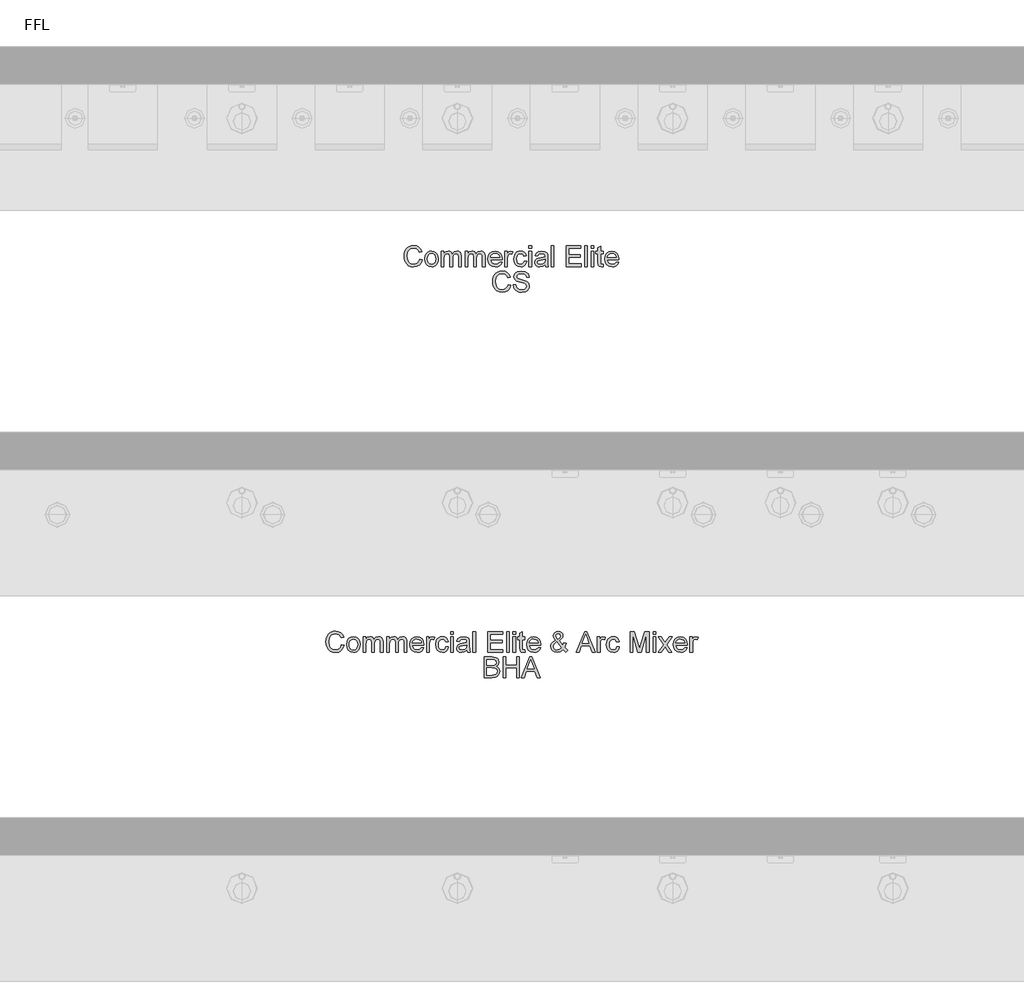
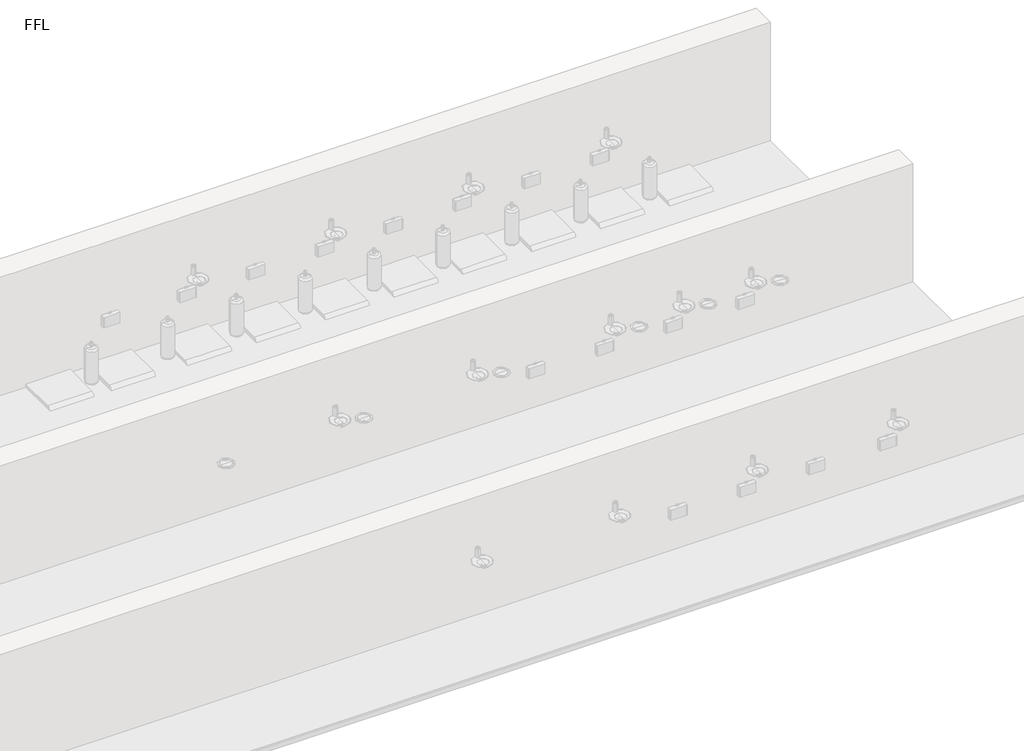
# One storey, part 12 of 13: 2 proxies.
"""IFC4 building model written with IfcOpenShell, lengths in millimetres."""

from ifc_helpers import new_model, si_unit, origin, origin_with_axes, place, context, project, spatial, polyline, outline, extrude, element, save

model = new_model("IFC4")

# Units and contexts
model_context = context("Model", 3, world=origin())
ifc_project = project(units=[si_unit("LENGTHUNIT", "METRE", prefix="MILLI")], contexts=[model_context])

# Site, building, storey
site = spatial("IfcSite", under=ifc_project)
building = spatial("IfcBuilding", under=site)
storey = spatial("IfcBuildingStorey", under=building, Name="FFL", Elevation=0.0)

# Proxies
placement = place(None, origin())
element("IfcBuildingElementProxy", 1, Name="150mm Arial", ObjectType="150mm Arial", at=placement, inside=storey, context=model_context, shape_type="SweptSolid", body=[
    extrude(outline(polyline([(15499.8800917, 3836.3018309), (15518.3416302, 3831.5422155), (15509.8230004, 3810.0292948), (15496.454611, 3794.3126482), (15478.8945148, 3784.698766), (15457.8007648, 3781.4941386), (15436.3870028, 3783.9190184), (15419.3812937, 3791.1936578), (15406.3464379, 3803.065653), (15396.845236, 3819.2826001), (15391.0444547, 3838.3481049), (15389.110861, 3858.7657732), (15391.2968586, 3880.3012299), (15397.8548514, 3898.8979847), (15408.4422913, 3913.9655929), (15422.7166302, 3924.9136097), (15439.6457167, 3931.5797756), (15458.1973994, 3933.8018309), (15478.4392865, 3930.9262299), (15495.1745629, 3922.299427), (15507.8803922, 3908.4532732), (15516.0339379, 3889.9196193), (15497.5723994, 3885.5205809), (15491.1721591, 3898.9836217), (15482.4281687, 3908.2188982), (15471.2322552, 3913.5599439), (15457.4762456, 3915.3402924), (15441.6198754, 3913.3661338), (15428.5940341, 3907.4436578), (15418.7097191, 3898.1948597), (15412.2779283, 3886.2417347), (15407.5723994, 3858.8018309), (15413.1433129, 3826.9989463), (15420.2647071, 3815.1224439), (15430.4870629, 3806.6804367), (15442.7421711, 3801.6368669), (15455.9618225, 3799.955677), (15471.3719788, 3802.2453405), (15484.2130244, 3809.1143309), (15493.9080365, 3820.4905328), (15499.8800917, 3836.3018309)])), origin_with_axes(), (0.0, 0.0, 1.0), 5.0),
    extrude(outline(polyline([(15536.8031687, 3838.0326001), (15540.7965581, 3864.1834415), (15552.7767264, 3882.5638501), (15567.5784091, 3891.5692588), (15585.3007648, 3894.5710617), (15604.6952961, 3890.9157131), (15620.1865821, 3879.9496674), (15630.3413297, 3862.5383092), (15633.7262456, 3839.5470232), (15632.2298514, 3820.8961818), (15627.7406687, 3806.6984655), (15620.3894066, 3796.0659535), (15610.3067744, 3788.1107251), (15598.3311134, 3783.1482852), (15585.3007648, 3781.4941386), (15565.6718586, 3785.1359655), (15550.1986014, 3796.0614463), (15540.1520268, 3813.8378886), (15536.8031687, 3838.0326001)]), holes=[polyline([(15555.2647071, 3838.0686578), (15557.4011254, 3821.3604246), (15563.8103802, 3809.456879), (15573.4558129, 3802.3309775), (15585.3007648, 3799.955677), (15597.0916302, 3802.3444992), (15606.7190341, 3809.5109655), (15613.1282889, 3821.5722636), (15615.2647071, 3838.6455809), (15613.1147672, 3854.8670352), (15606.6649475, 3866.6083213), (15597.024022, 3873.7342227), (15585.3007648, 3876.1095232), (15573.4558129, 3873.7432371), (15563.8103802, 3866.644379), (15557.4011254, 3854.7678766), (15555.2647071, 3838.0686578)])]), origin_with_axes(), (0.0, 0.0, 1.0), 5.0),
    extrude(outline(polyline([(15654.4954764, 3783.8018309), (15654.4954764, 3892.2633693), (15672.9570148, 3892.2633693), (15672.9570148, 3874.4148117), (15685.6493225, 3889.0362059), (15703.7142264, 3894.5710617), (15713.9816542, 3893.1603044), (15722.2118225, 3888.9280328), (15732.3800917, 3873.1167347), (15746.7851398, 3889.2074799), (15764.9762456, 3894.5710617), (15778.8539499, 3892.3399919), (15789.1168706, 3885.6467828), (15795.4585172, 3874.3111458), (15797.5723994, 3858.1527924), (15797.5723994, 3783.8018309), (15779.110861, 3783.8018309), (15779.110861, 3850.2201001), (15777.3981206, 3865.6347636), (15771.1961975, 3873.2249078), (15760.6493225, 3876.1095232), (15750.6478201, 3874.2615665), (15742.4942744, 3868.7176963), (15737.072099, 3859.0993068), (15735.2647071, 3845.0277924), (15735.2647071, 3783.8018309), (15716.8031687, 3783.8018309), (15716.8031687, 3852.2753886), (15712.5303321, 3870.160004), (15706.8918105, 3874.6221434), (15698.5219187, 3876.1095232), (15684.8560533, 3872.143177), (15675.7695148, 3860.5326001), (15672.9570148, 3838.5013501), (15672.9570148, 3783.8018309), (15654.4954764, 3783.8018309)])), origin_with_axes(), (0.0, 0.0, 1.0), 5.0),
    extrude(outline(polyline([(15825.2647071, 3783.8018309), (15825.2647071, 3892.2633693), (15843.7262456, 3892.2633693), (15843.7262456, 3874.4148117), (15856.4185533, 3889.0362059), (15874.4834571, 3894.5710617), (15884.750885, 3893.1603044), (15892.9810533, 3888.9280328), (15903.1493225, 3873.1167347), (15917.5543706, 3889.2074799), (15935.7454764, 3894.5710617), (15949.6231807, 3892.3399919), (15959.8861014, 3885.6467828), (15966.227748, 3874.3111458), (15968.3416302, 3858.1527924), (15968.3416302, 3783.8018309), (15949.8800917, 3783.8018309), (15949.8800917, 3850.2201001), (15948.1673514, 3865.6347636), (15941.9654283, 3873.2249078), (15931.4185533, 3876.1095232), (15921.4170509, 3874.2615665), (15913.2635052, 3868.7176963), (15907.8413297, 3859.0993068), (15906.0339379, 3845.0277924), (15906.0339379, 3783.8018309), (15887.5723994, 3783.8018309), (15887.5723994, 3852.2753886), (15883.2995629, 3870.160004), (15877.6610413, 3874.6221434), (15869.2911494, 3876.1095232), (15855.6252841, 3872.143177), (15846.5387456, 3860.5326001), (15843.7262456, 3838.5013501), (15843.7262456, 3783.8018309), (15825.2647071, 3783.8018309)])), origin_with_axes(), (0.0, 0.0, 1.0), 5.0),
    extrude(outline(polyline([(16071.9714379, 3816.1095232), (16090.0723994, 3813.8018309), (16083.5504643, 3800.1630088), (16073.1433129, 3789.9676963), (16059.0853201, 3783.612528), (16041.610861, 3781.4941386), (16019.9492023, 3785.1494871), (16003.2815341, 3796.1155328), (15992.6535292, 3813.6801362), (15989.110861, 3837.1311578), (15992.6895869, 3861.3709415), (16003.4257648, 3879.4989463), (16019.8680725, 3890.8030328), (16040.5651879, 3894.5710617), (16060.617772, 3890.8120472), (16076.6409091, 3879.535004), (16087.1472191, 3861.4430568), (16090.6493225, 3837.2393309), (16090.5411494, 3832.2633693), (16007.5723994, 3832.2633693), (16010.7680124, 3818.4442588), (16018.1913898, 3808.285004), (16028.9050316, 3802.0380088), (16041.9714379, 3799.955677), (16060.0723994, 3803.8138501), (16071.9714379, 3816.1095232)]), holes=[polyline([(16007.5723994, 3850.7249078), (16072.1877841, 3850.7249078), (16069.6907889, 3860.4785136), (16064.7959571, 3867.455677), (16054.032736, 3873.9460617), (16040.4930725, 3876.1095232), (16028.0486615, 3874.3832612), (16017.7586975, 3869.2044751), (16010.6057528, 3861.1320592), (16007.5723994, 3850.7249078)])]), origin_with_axes(), (0.0, 0.0, 1.0), 5.0),
    extrude(outline(polyline([(16109.110861, 3783.8018309), (16109.110861, 3892.2633693), (16125.2647071, 3892.2633693), (16125.2647071, 3876.2176963), (16136.7310533, 3891.0013501), (16148.2695148, 3894.5710617), (16166.8031687, 3888.8739463), (16160.6373033, 3872.3234655), (16147.6565341, 3876.1095232), (16137.2178321, 3872.4676963), (16130.5651879, 3862.3715424), (16127.5723994, 3840.8090424), (16127.5723994, 3783.8018309), (16109.110861, 3783.8018309)])), origin_with_axes(), (0.0, 0.0, 1.0), 5.0),
    extrude(outline(polyline([(16247.5723994, 3823.0326001), (16266.0339379, 3820.7249078), (16260.8867023, 3804.3051362), (16251.2142264, 3791.8967828), (16237.9269667, 3784.0947996), (16221.9353802, 3781.4941386), (16202.2974595, 3785.1224439), (16186.9413898, 3796.0073597), (16177.0300316, 3813.6711217), (16173.7262456, 3837.6359655), (16179.3692744, 3868.3030328), (16186.4906687, 3879.8009294), (16196.5687937, 3888.0085617), (16208.6255845, 3892.9304367), (16221.6829764, 3894.5710617), (16237.2824355, 3892.3174559), (16249.7538898, 3885.5566386), (16258.7007047, 3874.6491867), (16263.7262456, 3859.955677), (16245.2647071, 3857.6479847), (16236.7010052, 3871.4761097), (16221.8272071, 3876.1095232), (16209.8966182, 3873.8288742), (16200.4269667, 3866.986927), (16194.2475797, 3855.2140905), (16192.1877841, 3838.1407732), (16194.2025076, 3820.8375881), (16200.2466783, 3809.0241867), (16209.5450557, 3802.2228044), (16221.3223994, 3799.955677), (16230.8821951, 3801.3709415), (16238.720236, 3805.6167347), (16244.4218586, 3812.8012299), (16247.5723994, 3823.0326001)])), origin_with_axes(), (0.0, 0.0, 1.0), 5.0),
    extrude(outline(polyline([(16282.1877841, 3913.0326001), (16282.1877841, 3931.4941386), (16300.6493225, 3931.4941386), (16300.6493225, 3913.0326001), (16282.1877841, 3913.0326001)])), origin_with_axes(), (0.0, 0.0, 1.0), 5.0),
    extrude(outline(polyline([(16282.1877841, 3783.8018309), (16282.1877841, 3892.2633693), (16300.6493225, 3892.2633693), (16300.6493225, 3783.8018309), (16282.1877841, 3783.8018309)])), origin_with_axes(), (0.0, 0.0, 1.0), 5.0),
    extrude(outline(polyline([(16397.5723994, 3797.6479847), (16379.6697552, 3785.1359655), (16359.892111, 3781.4941386), (16344.4639259, 3783.6846434), (16333.0832167, 3790.2561578), (16326.0654884, 3800.2351242), (16323.7262456, 3812.6479847), (16327.2598994, 3827.2513501), (16336.5447552, 3837.8523117), (16349.4714379, 3843.910004), (16365.4449956, 3846.6864463), (16397.4642264, 3853.0326001), (16397.5723994, 3857.143177), (16396.3013658, 3865.3823597), (16392.4882648, 3870.7729847), (16383.9606206, 3874.7753886), (16372.079611, 3876.1095232), (16353.4017264, 3872.5578405), (16344.4954764, 3859.955677), (16326.0339379, 3862.2633693), (16334.0207167, 3880.2922155), (16350.1024475, 3890.8571193), (16374.4594187, 3894.5710617), (16396.8332167, 3891.2898117), (16409.4714379, 3883.050629), (16415.1324956, 3870.5205809), (16416.0339379, 3854.3667347), (16416.0339379, 3831.3979847), (16416.9714379, 3799.3246674), (16420.6493225, 3783.8018309), (16402.1877841, 3783.8018309), (16397.5723994, 3797.6479847)]), holes=[polyline([(16397.5723994, 3834.5710617), (16367.7887456, 3828.910004), (16351.9053321, 3825.9172155), (16344.7118225, 3821.049427), (16342.1877841, 3813.9460617), (16347.6865821, 3803.9580809), (16363.8223994, 3799.955677), (16382.5002841, 3804.3727443), (16394.5435533, 3815.0638501), (16397.4642264, 3829.3426963), (16397.5723994, 3834.5710617)])]), origin_with_axes(), (0.0, 0.0, 1.0), 5.0),
    extrude(outline(polyline([(16441.4185533, 3783.8018309), (16441.4185533, 3931.4941386), (16459.8800917, 3931.4941386), (16459.8800917, 3783.8018309), (16441.4185533, 3783.8018309)])), origin_with_axes(), (0.0, 0.0, 1.0), 5.0),
    extrude(outline(polyline([(16547.5723994, 3783.8018309), (16547.5723994, 3931.4941386), (16653.7262456, 3931.4941386), (16653.7262456, 3913.0326001), (16566.0339379, 3913.0326001), (16566.0339379, 3869.1864463), (16649.110861, 3869.1864463), (16649.110861, 3850.7249078), (16566.0339379, 3850.7249078), (16566.0339379, 3802.2633693), (16656.0339379, 3802.2633693), (16656.0339379, 3783.8018309), (16547.5723994, 3783.8018309)])), origin_with_axes(), (0.0, 0.0, 1.0), 5.0),
    extrude(outline(polyline([(16681.4185533, 3783.8018309), (16681.4185533, 3931.4941386), (16699.8800917, 3931.4941386), (16699.8800917, 3783.8018309), (16681.4185533, 3783.8018309)])), origin_with_axes(), (0.0, 0.0, 1.0), 5.0),
    extrude(outline(polyline([(16727.5723994, 3783.8018309), (16727.5723994, 3892.2633693), (16746.0339379, 3892.2633693), (16746.0339379, 3783.8018309), (16727.5723994, 3783.8018309)])), origin_with_axes(), (0.0, 0.0, 1.0), 5.0),
    extrude(outline(polyline([(16727.5723994, 3913.0326001), (16727.5723994, 3931.4941386), (16746.0339379, 3931.4941386), (16746.0339379, 3913.0326001), (16727.5723994, 3913.0326001)])), origin_with_axes(), (0.0, 0.0, 1.0), 5.0),
    extrude(outline(polyline([(16812.9570148, 3799.1984655), (16815.2647071, 3783.2609655), (16801.454611, 3781.4941386), (16785.985861, 3784.5590424), (16778.2695148, 3792.5999078), (16776.0339379, 3813.549427), (16776.0339379, 3873.8018309), (16762.1877841, 3873.8018309), (16762.1877841, 3892.2633693), (16776.0339379, 3892.2633693), (16776.0339379, 3918.6215424), (16794.4954764, 3929.4749078), (16794.4954764, 3892.2633693), (16812.9570148, 3892.2633693), (16812.9570148, 3873.8018309), (16794.4954764, 3873.8018309), (16794.4954764, 3814.0902924), (16795.4690341, 3804.5710617), (16798.6240821, 3801.1996674), (16804.9161494, 3799.955677), (16812.9570148, 3799.1984655)])), origin_with_axes(), (0.0, 0.0, 1.0), 5.0),
    extrude(outline(polyline([(16907.3560533, 3816.1095232), (16925.4570148, 3813.8018309), (16918.9350797, 3800.1630088), (16908.5279283, 3789.9676963), (16894.4699355, 3783.612528), (16876.9954764, 3781.4941386), (16855.3338177, 3785.1494871), (16838.6661494, 3796.1155328), (16828.0381446, 3813.6801362), (16824.4954764, 3837.1311578), (16828.0742023, 3861.3709415), (16838.8103802, 3879.4989463), (16855.2526879, 3890.8030328), (16875.9498033, 3894.5710617), (16896.0023874, 3890.8120472), (16912.0255244, 3879.535004), (16922.5318345, 3861.4430568), (16926.0339379, 3837.2393309), (16925.9257648, 3832.2633693), (16842.9570148, 3832.2633693), (16846.1526278, 3818.4442588), (16853.5760052, 3808.285004), (16864.289647, 3802.0380088), (16877.3560533, 3799.955677), (16895.4570148, 3803.8138501), (16907.3560533, 3816.1095232)]), holes=[polyline([(16842.9570148, 3850.7249078), (16907.5723994, 3850.7249078), (16905.0754042, 3860.4785136), (16900.1805725, 3867.455677), (16889.4173514, 3873.9460617), (16875.8776879, 3876.1095232), (16863.4332768, 3874.3832612), (16853.1433129, 3869.2044751), (16845.9903682, 3861.1320592), (16842.9570148, 3850.7249078)])]), origin_with_axes(), (0.0, 0.0, 1.0), 5.0),
    extrude(outline(polyline([(16133.3416302, 3653.9941386), (16151.8031687, 3649.2345232), (16143.2845389, 3627.7216025), (16129.9161494, 3612.0049559), (16112.3560533, 3602.3910737), (16091.2623033, 3599.1864463), (16069.8485413, 3601.6113261), (16052.8428321, 3608.8859655), (16039.8079764, 3620.7579607), (16030.3067744, 3636.9749078), (16024.5059932, 3656.0404126), (16022.5723994, 3676.4580809), (16024.758397, 3697.9935376), (16031.3163898, 3716.5902924), (16041.9038297, 3731.6579006), (16056.1781687, 3742.6059174), (16073.1072552, 3749.2720833), (16091.6589379, 3751.4941386), (16111.9008249, 3748.6185376), (16128.6361014, 3739.9917347), (16141.3419307, 3726.1455809), (16149.4954764, 3707.611927), (16131.0339379, 3703.2128886), (16124.6336975, 3716.6759294), (16115.8897071, 3725.9112059), (16104.6937937, 3731.2522516), (16090.9377841, 3733.0326001), (16075.0814139, 3731.0584415), (16062.0555725, 3725.1359655), (16052.1712576, 3715.8871674), (16045.7394667, 3703.9340424), (16041.0339379, 3676.4941386), (16046.6048514, 3644.691254), (16053.7262456, 3632.8147516), (16063.9486014, 3624.3727443), (16076.2037095, 3619.3291746), (16089.423361, 3617.6479847), (16104.8335172, 3619.9376482), (16117.6745629, 3626.8066386), (16127.3695749, 3638.1828405), (16133.3416302, 3653.9941386)])), origin_with_axes(), (0.0, 0.0, 1.0), 5.0),
    extrude(outline(polyline([(16170.2647071, 3652.2633693), (16188.7262456, 3652.2633693), (16194.6757648, 3633.783802), (16209.2070148, 3622.1011097), (16231.3464379, 3617.6479847), (16250.6373033, 3621.019379), (16263.095236, 3630.2862059), (16267.1877841, 3642.6720232), (16264.1228802, 3654.1924559), (16251.5748033, 3662.5758693), (16224.6937937, 3669.6251482), (16195.7574956, 3678.7297155), (16180.0543706, 3692.4676963), (16174.8800917, 3710.8210617), (16176.4801518, 3721.6338621), (16181.2803321, 3731.7164943), (16189.1544307, 3740.2621674), (16199.9762456, 3746.4640905), (16227.3440341, 3751.4941386), (16256.5507648, 3746.2297155), (16267.7466783, 3739.7303165), (16276.0219187, 3730.7609655), (16281.2592985, 3719.8805568), (16283.3416302, 3707.6479847), (16264.8800917, 3707.6479847), (16261.4906687, 3718.6636097), (16254.423361, 3726.6143309), (16243.3806927, 3731.4280328), (16228.0651879, 3733.0326001), (16212.3891062, 3731.4460617), (16201.6348994, 3726.6864463), (16195.4149475, 3719.6822395), (16193.3416302, 3711.361927), (16194.8109812, 3704.2675761), (16199.2190341, 3698.5614463), (16229.3632648, 3688.2489463), (16262.0315341, 3678.9821193), (16272.555873, 3672.284403), (16279.8981206, 3664.018177), (16285.6493225, 3643.1407732), (16283.9951759, 3631.7600641), (16279.032736, 3621.0554367), (16270.9648273, 3611.8426963), (16259.9942744, 3604.9376482), (16232.0675917, 3599.1864463), (16213.9801518, 3600.736927), (16199.0928321, 3605.3883693), (16187.2343586, 3613.158802), (16178.2334571, 3624.066254), (16172.4552119, 3637.3535136), (16170.2647071, 3652.2633693)])), origin_with_axes(), (0.0, 0.0, 1.0), 5.0),
])
element("IfcBuildingElementProxy", 2, Name="150mm Arial", ObjectType="150mm Arial", at=placement, inside=storey, context=model_context, shape_type="SweptSolid", body=[
    extrude(outline(polyline([(14940.2647071, 1076.3018309), (14958.7262456, 1071.5422155), (14950.2076158, 1050.0292948), (14936.8392264, 1034.3126482), (14919.2791302, 1024.698766), (14898.1853802, 1021.4941386), (14876.7716182, 1023.9190184), (14859.7659091, 1031.1936578), (14846.7310533, 1043.065653), (14837.2298514, 1059.2826001), (14831.4290701, 1078.3481049), (14829.4954764, 1098.7657732), (14831.681474, 1120.3012299), (14838.2394667, 1138.8979847), (14848.8269066, 1153.9655929), (14863.1012456, 1164.9136097), (14880.0303321, 1171.5797756), (14898.5820148, 1173.8018309), (14918.8239018, 1170.9262299), (14935.5591783, 1162.299427), (14948.2650076, 1148.4532732), (14956.4185533, 1129.9196193), (14937.9570148, 1125.5205809), (14931.5567744, 1138.9836217), (14922.8127841, 1148.2188982), (14911.6168706, 1153.5599439), (14897.860861, 1155.3402924), (14882.0044908, 1153.3661338), (14868.9786494, 1147.4436578), (14859.0943345, 1138.1948597), (14852.6625437, 1126.2417347), (14847.9570148, 1098.8018309), (14853.5279283, 1066.9989463), (14860.6493225, 1055.1224439), (14870.8716783, 1046.6804367), (14883.1267865, 1041.6368669), (14896.3464379, 1039.955677), (14911.7565941, 1042.2453405), (14924.5976398, 1049.1143309), (14934.2926518, 1060.4905328), (14940.2647071, 1076.3018309)])), origin_with_axes(), (0.0, 0.0, 1.0), 5.0),
    extrude(outline(polyline([(14977.1877841, 1078.0326001), (14981.1811735, 1104.1834415), (14993.1613417, 1122.5638501), (15007.9630244, 1131.5692588), (15025.6853802, 1134.5710617), (15045.0799115, 1130.9157131), (15060.5711975, 1119.9496674), (15070.7259451, 1102.5383092), (15074.110861, 1079.5470232), (15072.6144667, 1060.8961818), (15068.1252841, 1046.6984655), (15060.774022, 1036.0659535), (15050.6913898, 1028.1107251), (15038.7157288, 1023.1482852), (15025.6853802, 1021.4941386), (15006.056474, 1025.1359655), (14990.5832167, 1036.0614463), (14980.5366422, 1053.8378886), (14977.1877841, 1078.0326001)]), holes=[polyline([(14995.6493225, 1078.0686578), (14997.7857408, 1061.3604246), (15004.1949956, 1049.456879), (15013.8404283, 1042.3309775), (15025.6853802, 1039.955677), (15037.4762456, 1042.3444992), (15047.1036494, 1049.5109655), (15053.5129042, 1061.5722636), (15055.6493225, 1078.6455809), (15053.4993826, 1094.8670352), (15047.0495629, 1106.6083213), (15037.4086374, 1113.7342227), (15025.6853802, 1116.1095232), (15013.8404283, 1113.7432371), (15004.1949956, 1106.644379), (14997.7857408, 1094.7678766), (14995.6493225, 1078.0686578)])]), origin_with_axes(), (0.0, 0.0, 1.0), 5.0),
    extrude(outline(polyline([(15094.8800917, 1023.8018309), (15094.8800917, 1132.2633693), (15113.3416302, 1132.2633693), (15113.3416302, 1114.4148117), (15126.0339379, 1129.0362059), (15144.0988417, 1134.5710617), (15154.3662696, 1133.1603044), (15162.5964379, 1128.9280328), (15172.7647071, 1113.1167347), (15187.1697552, 1129.2074799), (15205.360861, 1134.5710617), (15219.2385653, 1132.3399919), (15229.501486, 1125.6467828), (15235.8431326, 1114.3111458), (15237.9570148, 1098.1527924), (15237.9570148, 1023.8018309), (15219.4954764, 1023.8018309), (15219.4954764, 1090.2201001), (15217.782736, 1105.6347636), (15211.5808129, 1113.2249078), (15201.0339379, 1116.1095232), (15191.0324355, 1114.2615665), (15182.8788898, 1108.7176963), (15177.4567143, 1099.0993068), (15175.6493225, 1085.0277924), (15175.6493225, 1023.8018309), (15157.1877841, 1023.8018309), (15157.1877841, 1092.2753886), (15152.9149475, 1110.160004), (15147.2764259, 1114.6221434), (15138.9065341, 1116.1095232), (15125.2406687, 1112.143177), (15116.1541302, 1100.5326001), (15113.3416302, 1078.5013501), (15113.3416302, 1023.8018309), (15094.8800917, 1023.8018309)])), origin_with_axes(), (0.0, 0.0, 1.0), 5.0),
    extrude(outline(polyline([(15265.6493225, 1023.8018309), (15265.6493225, 1132.2633693), (15284.110861, 1132.2633693), (15284.110861, 1114.4148117), (15296.8031687, 1129.0362059), (15314.8680725, 1134.5710617), (15325.1355004, 1133.1603044), (15333.3656687, 1128.9280328), (15343.5339379, 1113.1167347), (15357.938986, 1129.2074799), (15376.1300917, 1134.5710617), (15390.0077961, 1132.3399919), (15400.2707167, 1125.6467828), (15406.6123634, 1114.3111458), (15408.7262456, 1098.1527924), (15408.7262456, 1023.8018309), (15390.2647071, 1023.8018309), (15390.2647071, 1090.2201001), (15388.5519667, 1105.6347636), (15382.3500437, 1113.2249078), (15371.8031687, 1116.1095232), (15361.8016663, 1114.2615665), (15353.6481206, 1108.7176963), (15348.2259451, 1099.0993068), (15346.4185533, 1085.0277924), (15346.4185533, 1023.8018309), (15327.9570148, 1023.8018309), (15327.9570148, 1092.2753886), (15323.6841783, 1110.160004), (15318.0456566, 1114.6221434), (15309.6757648, 1116.1095232), (15296.0098994, 1112.143177), (15286.923361, 1100.5326001), (15284.110861, 1078.5013501), (15284.110861, 1023.8018309), (15265.6493225, 1023.8018309)])), origin_with_axes(), (0.0, 0.0, 1.0), 5.0),
    extrude(outline(polyline([(15512.3560533, 1056.1095232), (15530.4570148, 1053.8018309), (15523.9350797, 1040.1630088), (15513.5279283, 1029.9676963), (15499.4699355, 1023.612528), (15481.9954764, 1021.4941386), (15460.3338177, 1025.1494871), (15443.6661494, 1036.1155328), (15433.0381446, 1053.6801362), (15429.4954764, 1077.1311578), (15433.0742023, 1101.3709415), (15443.8103802, 1119.4989463), (15460.2526879, 1130.8030328), (15480.9498033, 1134.5710617), (15501.0023874, 1130.8120472), (15517.0255244, 1119.535004), (15527.5318345, 1101.4430568), (15531.0339379, 1077.2393309), (15530.9257648, 1072.2633693), (15447.9570148, 1072.2633693), (15451.1526278, 1058.4442588), (15458.5760052, 1048.285004), (15469.289647, 1042.0380088), (15482.3560533, 1039.955677), (15500.4570148, 1043.8138501), (15512.3560533, 1056.1095232)]), holes=[polyline([(15447.9570148, 1090.7249078), (15512.5723994, 1090.7249078), (15510.0754042, 1100.4785136), (15505.1805725, 1107.455677), (15494.4173514, 1113.9460617), (15480.8776879, 1116.1095232), (15468.4332768, 1114.3832612), (15458.1433129, 1109.2044751), (15450.9903682, 1101.1320592), (15447.9570148, 1090.7249078)])]), origin_with_axes(), (0.0, 0.0, 1.0), 5.0),
    extrude(outline(polyline([(15549.4954764, 1023.8018309), (15549.4954764, 1132.2633693), (15565.6493225, 1132.2633693), (15565.6493225, 1116.2176963), (15577.1156687, 1131.0013501), (15588.6541302, 1134.5710617), (15607.1877841, 1128.8739463), (15601.0219187, 1112.3234655), (15588.0411494, 1116.1095232), (15577.6024475, 1112.4676963), (15570.9498033, 1102.3715424), (15567.9570148, 1080.8090424), (15567.9570148, 1023.8018309), (15549.4954764, 1023.8018309)])), origin_with_axes(), (0.0, 0.0, 1.0), 5.0),
    extrude(outline(polyline([(15687.9570148, 1063.0326001), (15706.4185533, 1060.7249078), (15701.2713177, 1044.3051362), (15691.5988417, 1031.8967828), (15678.3115821, 1024.0947996), (15662.3199956, 1021.4941386), (15642.6820749, 1025.1224439), (15627.3260052, 1036.0073597), (15617.414647, 1053.6711217), (15614.110861, 1077.6359655), (15619.7538898, 1108.3030328), (15626.8752841, 1119.8009294), (15636.9534091, 1128.0085617), (15649.0101999, 1132.9304367), (15662.0675917, 1134.5710617), (15677.6670509, 1132.3174559), (15690.1385052, 1125.5566386), (15699.0853201, 1114.6491867), (15704.110861, 1099.955677), (15685.6493225, 1097.6479847), (15677.0856206, 1111.4761097), (15662.2118225, 1116.1095232), (15650.2812336, 1113.8288742), (15640.8115821, 1106.986927), (15634.6321951, 1095.2140905), (15632.5723994, 1078.1407732), (15634.587123, 1060.8375881), (15640.6312937, 1049.0241867), (15649.9296711, 1042.2228044), (15661.7070148, 1039.955677), (15671.2668105, 1041.3709415), (15679.1048514, 1045.6167347), (15684.806474, 1052.8012299), (15687.9570148, 1063.0326001)])), origin_with_axes(), (0.0, 0.0, 1.0), 5.0),
    extrude(outline(polyline([(15722.5723994, 1153.0326001), (15722.5723994, 1171.4941386), (15741.0339379, 1171.4941386), (15741.0339379, 1153.0326001), (15722.5723994, 1153.0326001)])), origin_with_axes(), (0.0, 0.0, 1.0), 5.0),
    extrude(outline(polyline([(15722.5723994, 1023.8018309), (15722.5723994, 1132.2633693), (15741.0339379, 1132.2633693), (15741.0339379, 1023.8018309), (15722.5723994, 1023.8018309)])), origin_with_axes(), (0.0, 0.0, 1.0), 5.0),
    extrude(outline(polyline([(15837.9570148, 1037.6479847), (15820.0543706, 1025.1359655), (15800.2767264, 1021.4941386), (15784.8485413, 1023.6846434), (15773.4678321, 1030.2561578), (15766.4501038, 1040.2351242), (15764.110861, 1052.6479847), (15767.6445148, 1067.2513501), (15776.9293706, 1077.8523117), (15789.8560533, 1083.910004), (15805.829611, 1086.6864463), (15837.8488417, 1093.0326001), (15837.9570148, 1097.143177), (15836.6859812, 1105.3823597), (15832.8728802, 1110.7729847), (15824.345236, 1114.7753886), (15812.4642264, 1116.1095232), (15793.7863417, 1112.5578405), (15784.8800917, 1099.955677), (15766.4185533, 1102.2633693), (15774.4053321, 1120.2922155), (15790.4870629, 1130.8571193), (15814.8440341, 1134.5710617), (15837.2178321, 1131.2898117), (15849.8560533, 1123.050629), (15855.517111, 1110.5205809), (15856.4185533, 1094.3667347), (15856.4185533, 1071.3979847), (15857.3560533, 1039.3246674), (15861.0339379, 1023.8018309), (15842.5723994, 1023.8018309), (15837.9570148, 1037.6479847)]), holes=[polyline([(15837.9570148, 1074.5710617), (15808.173361, 1068.910004), (15792.2899475, 1065.9172155), (15785.0964379, 1061.049427), (15782.5723994, 1053.9460617), (15788.0711975, 1043.9580809), (15804.2070148, 1039.955677), (15822.8848994, 1044.3727443), (15834.9281687, 1055.0638501), (15837.8488417, 1069.3426963), (15837.9570148, 1074.5710617)])]), origin_with_axes(), (0.0, 0.0, 1.0), 5.0),
    extrude(outline(polyline([(15881.8031687, 1023.8018309), (15881.8031687, 1171.4941386), (15900.2647071, 1171.4941386), (15900.2647071, 1023.8018309), (15881.8031687, 1023.8018309)])), origin_with_axes(), (0.0, 0.0, 1.0), 5.0),
    extrude(outline(polyline([(15987.9570148, 1023.8018309), (15987.9570148, 1171.4941386), (16094.110861, 1171.4941386), (16094.110861, 1153.0326001), (16006.4185533, 1153.0326001), (16006.4185533, 1109.1864463), (16089.4954764, 1109.1864463), (16089.4954764, 1090.7249078), (16006.4185533, 1090.7249078), (16006.4185533, 1042.2633693), (16096.4185533, 1042.2633693), (16096.4185533, 1023.8018309), (15987.9570148, 1023.8018309)])), origin_with_axes(), (0.0, 0.0, 1.0), 5.0),
    extrude(outline(polyline([(16121.8031687, 1023.8018309), (16121.8031687, 1171.4941386), (16140.2647071, 1171.4941386), (16140.2647071, 1023.8018309), (16121.8031687, 1023.8018309)])), origin_with_axes(), (0.0, 0.0, 1.0), 5.0),
    extrude(outline(polyline([(16167.9570148, 1023.8018309), (16167.9570148, 1132.2633693), (16186.4185533, 1132.2633693), (16186.4185533, 1023.8018309), (16167.9570148, 1023.8018309)])), origin_with_axes(), (0.0, 0.0, 1.0), 5.0),
    extrude(outline(polyline([(16167.9570148, 1153.0326001), (16167.9570148, 1171.4941386), (16186.4185533, 1171.4941386), (16186.4185533, 1153.0326001), (16167.9570148, 1153.0326001)])), origin_with_axes(), (0.0, 0.0, 1.0), 5.0),
    extrude(outline(polyline([(16253.3416302, 1039.1984655), (16255.6493225, 1023.2609655), (16241.8392264, 1021.4941386), (16226.3704764, 1024.5590424), (16218.6541302, 1032.5999078), (16216.4185533, 1053.549427), (16216.4185533, 1113.8018309), (16202.5723994, 1113.8018309), (16202.5723994, 1132.2633693), (16216.4185533, 1132.2633693), (16216.4185533, 1158.6215424), (16234.8800917, 1169.4749078), (16234.8800917, 1132.2633693), (16253.3416302, 1132.2633693), (16253.3416302, 1113.8018309), (16234.8800917, 1113.8018309), (16234.8800917, 1054.0902924), (16235.8536494, 1044.5710617), (16239.0086975, 1041.1996674), (16245.3007648, 1039.955677), (16253.3416302, 1039.1984655)])), origin_with_axes(), (0.0, 0.0, 1.0), 5.0),
    extrude(outline(polyline([(16347.7406687, 1056.1095232), (16365.8416302, 1053.8018309), (16359.3196951, 1040.1630088), (16348.9125437, 1029.9676963), (16334.8545509, 1023.612528), (16317.3800917, 1021.4941386), (16295.7184331, 1025.1494871), (16279.0507648, 1036.1155328), (16268.42276, 1053.6801362), (16264.8800917, 1077.1311578), (16268.4588177, 1101.3709415), (16279.1949956, 1119.4989463), (16295.6373033, 1130.8030328), (16316.3344187, 1134.5710617), (16336.3870028, 1130.8120472), (16352.4101398, 1119.535004), (16362.9164499, 1101.4430568), (16366.4185533, 1077.2393309), (16366.3103802, 1072.2633693), (16283.3416302, 1072.2633693), (16286.5372432, 1058.4442588), (16293.9606206, 1048.285004), (16304.6742624, 1042.0380088), (16317.7406687, 1039.955677), (16335.8416302, 1043.8138501), (16347.7406687, 1056.1095232)]), holes=[polyline([(16283.3416302, 1090.7249078), (16347.9570148, 1090.7249078), (16345.4600196, 1100.4785136), (16340.5651879, 1107.455677), (16329.8019667, 1113.9460617), (16316.2623033, 1116.1095232), (16303.8178922, 1114.3832612), (16293.5279283, 1109.2044751), (16286.3749836, 1101.1320592), (16283.3416302, 1090.7249078)])]), origin_with_axes(), (0.0, 0.0, 1.0), 5.0),
    extrude(outline(polyline([(16527.2719187, 1042.0470232), (16507.6925917, 1026.6323597), (16484.7959571, 1021.4941386), (16464.423361, 1025.2982251), (16448.7382648, 1036.7104847), (16440.6523273, 1049.8444992), (16437.9570148, 1064.4388501), (16440.1249836, 1077.3745472), (16446.6288898, 1088.9941386), (16457.4416903, 1099.2886097), (16472.5363417, 1108.2489463), (16459.6457167, 1126.9268309), (16456.4185533, 1140.7729847), (16458.9606206, 1153.2399318), (16466.5868225, 1163.9580809), (16478.0621831, 1171.3408934), (16492.1517264, 1173.8018309), (16505.5561735, 1171.4490665), (16516.2743225, 1164.3907732), (16523.3055725, 1154.0332011), (16525.6493225, 1141.7826001), (16523.9140461, 1131.4971434), (16518.7082167, 1121.986927), (16497.8848994, 1105.2922155), (16524.6036494, 1072.0109655), (16532.5723994, 1092.455677), (16551.0339379, 1088.4532732), (16537.9810533, 1058.0566386), (16560.2647071, 1035.7008693), (16546.4185533, 1021.4941386), (16527.2719187, 1042.0470232)]), holes=[polyline([(16488.5459571, 1116.9388501), (16503.7262456, 1128.3871674), (16507.1877841, 1139.2585617), (16502.626486, 1150.8511097), (16491.2142264, 1155.3402924), (16479.5495629, 1150.8871674), (16474.8800917, 1140.0157732), (16476.4666302, 1133.2549559), (16481.2623033, 1125.736927), (16488.5459571, 1116.9388501)]), polyline([(16514.9041302, 1055.3523117), (16481.9473994, 1096.4941386), (16461.6649475, 1081.0253886), (16456.4185533, 1066.8907732), (16458.2124235, 1058.1828405), (16463.5940341, 1049.1503886), (16472.2659091, 1042.2543549), (16483.9305725, 1039.955677), (16500.8957167, 1044.2465424), (16514.9041302, 1055.3523117)])]), origin_with_axes(), (0.0, 0.0, 1.0), 5.0),
    extrude(outline(polyline([(16621.5267264, 1023.8018309), (16680.4810533, 1171.4941386), (16696.2022071, 1171.4941386), (16755.1565341, 1023.8018309), (16735.6493225, 1023.8018309), (16718.7382648, 1069.955677), (16657.9089379, 1069.955677), (16641.0339379, 1023.8018309), (16621.5267264, 1023.8018309)]), holes=[polyline([(16664.6877841, 1088.4172155), (16711.9954764, 1088.4172155), (16698.6901879, 1124.7273117), (16688.3416302, 1153.0326001), (16679.1469187, 1127.9003886), (16664.6877841, 1088.4172155)])]), origin_with_axes(), (0.0, 0.0, 1.0), 5.0),
    extrude(outline(polyline([(16772.5723994, 1023.8018309), (16772.5723994, 1132.2633693), (16788.7262456, 1132.2633693), (16788.7262456, 1116.2176963), (16800.1925917, 1131.0013501), (16811.7310533, 1134.5710617), (16830.2647071, 1128.8739463), (16824.0988417, 1112.3234655), (16811.1180725, 1116.1095232), (16800.6793706, 1112.4676963), (16794.0267264, 1102.3715424), (16791.0339379, 1080.8090424), (16791.0339379, 1023.8018309), (16772.5723994, 1023.8018309)])), origin_with_axes(), (0.0, 0.0, 1.0), 5.0),
    extrude(outline(polyline([(16911.0339379, 1063.0326001), (16929.4954764, 1060.7249078), (16924.3482408, 1044.3051362), (16914.6757648, 1031.8967828), (16901.3885052, 1024.0947996), (16885.3969187, 1021.4941386), (16865.758998, 1025.1224439), (16850.4029283, 1036.0073597), (16840.4915701, 1053.6711217), (16837.1877841, 1077.6359655), (16842.8308129, 1108.3030328), (16849.9522071, 1119.8009294), (16860.0303321, 1128.0085617), (16872.087123, 1132.9304367), (16885.1445148, 1134.5710617), (16900.743974, 1132.3174559), (16913.2154283, 1125.5566386), (16922.1622432, 1114.6491867), (16927.1877841, 1099.955677), (16908.7262456, 1097.6479847), (16900.1625437, 1111.4761097), (16885.2887456, 1116.1095232), (16873.3581566, 1113.8288742), (16863.8885052, 1106.986927), (16857.7091182, 1095.2140905), (16855.6493225, 1078.1407732), (16857.6640461, 1060.8375881), (16863.7082167, 1049.0241867), (16873.0065941, 1042.2228044), (16884.7839379, 1039.955677), (16894.3437336, 1041.3709415), (16902.1817744, 1045.6167347), (16907.883397, 1052.8012299), (16911.0339379, 1063.0326001)])), origin_with_axes(), (0.0, 0.0, 1.0), 5.0),
    extrude(outline(polyline([(17005.6493225, 1023.8018309), (17005.6493225, 1171.4941386), (17037.4161494, 1171.4941386), (17067.6324956, 1067.3955809), (17073.7262456, 1045.6527924), (17080.3248033, 1069.1984655), (17110.0363417, 1171.4941386), (17141.8031687, 1171.4941386), (17141.8031687, 1023.8018309), (17123.3416302, 1023.8018309), (17123.3416302, 1153.0326001), (17086.2382648, 1023.8018309), (17061.2142264, 1023.8018309), (17024.110861, 1153.0326001), (17024.110861, 1023.8018309), (17005.6493225, 1023.8018309)])), origin_with_axes(), (0.0, 0.0, 1.0), 5.0),
    extrude(outline(polyline([(17171.8031687, 1153.0326001), (17171.8031687, 1171.4941386), (17190.2647071, 1171.4941386), (17190.2647071, 1153.0326001), (17171.8031687, 1153.0326001)])), origin_with_axes(), (0.0, 0.0, 1.0), 5.0),
    extrude(outline(polyline([(17171.8031687, 1023.8018309), (17171.8031687, 1132.2633693), (17190.2647071, 1132.2633693), (17190.2647071, 1023.8018309), (17171.8031687, 1023.8018309)])), origin_with_axes(), (0.0, 0.0, 1.0), 5.0),
    extrude(outline(polyline([(17206.4185533, 1023.8018309), (17245.8656687, 1078.3210617), (17208.7262456, 1132.2633693), (17230.9377841, 1132.2633693), (17248.8584571, 1106.3018309), (17257.2238417, 1094.0422155), (17264.4714379, 1104.066254), (17284.8800917, 1132.2633693), (17307.0916302, 1132.2633693), (17268.0772071, 1078.3210617), (17305.6493225, 1023.8018309), (17283.4377841, 1023.8018309), (17260.829611, 1056.5782732), (17256.6829764, 1062.5638501), (17228.6300917, 1023.8018309), (17206.4185533, 1023.8018309)])), origin_with_axes(), (0.0, 0.0, 1.0), 5.0),
    extrude(outline(polyline([(17397.7406687, 1056.1095232), (17415.8416302, 1053.8018309), (17409.3196951, 1040.1630088), (17398.9125437, 1029.9676963), (17384.8545509, 1023.612528), (17367.3800917, 1021.4941386), (17345.7184331, 1025.1494871), (17329.0507648, 1036.1155328), (17318.42276, 1053.6801362), (17314.8800917, 1077.1311578), (17318.4588177, 1101.3709415), (17329.1949956, 1119.4989463), (17345.6373033, 1130.8030328), (17366.3344187, 1134.5710617), (17386.3870028, 1130.8120472), (17402.4101398, 1119.535004), (17412.9164499, 1101.4430568), (17416.4185533, 1077.2393309), (17416.3103802, 1072.2633693), (17333.3416302, 1072.2633693), (17336.5372432, 1058.4442588), (17343.9606206, 1048.285004), (17354.6742624, 1042.0380088), (17367.7406687, 1039.955677), (17385.8416302, 1043.8138501), (17397.7406687, 1056.1095232)]), holes=[polyline([(17333.3416302, 1090.7249078), (17397.9570148, 1090.7249078), (17395.4600196, 1100.4785136), (17390.5651879, 1107.455677), (17379.8019667, 1113.9460617), (17366.2623033, 1116.1095232), (17353.8178922, 1114.3832612), (17343.5279283, 1109.2044751), (17336.3749836, 1101.1320592), (17333.3416302, 1090.7249078)])]), origin_with_axes(), (0.0, 0.0, 1.0), 5.0),
    extrude(outline(polyline([(17434.8800917, 1023.8018309), (17434.8800917, 1132.2633693), (17451.0339379, 1132.2633693), (17451.0339379, 1116.2176963), (17462.5002841, 1131.0013501), (17474.0387456, 1134.5710617), (17492.5723994, 1128.8739463), (17486.4065341, 1112.3234655), (17473.4257648, 1116.1095232), (17462.9870629, 1112.4676963), (17456.3344187, 1102.3715424), (17453.3416302, 1080.8090424), (17453.3416302, 1023.8018309), (17434.8800917, 1023.8018309)])), origin_with_axes(), (0.0, 0.0, 1.0), 5.0),
    extrude(outline(polyline([(15961.4185533, 841.4941386), (15961.4185533, 989.1864463), (16017.7767264, 989.1864463), (16045.3788898, 984.8414943), (16054.6547312, 979.3291746), (16061.6769667, 971.4821193), (16067.5723994, 952.5878886), (16062.6144667, 935.3342828), (16047.6324956, 922.2633693), (16058.0937336, 916.800629), (16065.8236014, 908.4893309), (16070.5967384, 897.8793549), (16072.1877841, 885.5205809), (16067.8428321, 865.6708213), (16057.079611, 851.5362059), (16041.0159091, 844.0362059), (16017.3440341, 841.4941386), (15961.4185533, 841.4941386)]), holes=[polyline([(15979.8800917, 929.1864463), (16013.5940341, 929.1864463), (16033.2815341, 930.7729847), (16045.126486, 937.6059174), (16049.110861, 949.6311578), (16045.3969187, 961.674427), (16034.7598994, 968.7958213), (16011.0339379, 970.7249078), (15979.8800917, 970.7249078), (15979.8800917, 929.1864463)]), polyline([(15979.8800917, 859.955677), (16017.7406687, 859.955677), (16031.4425917, 860.6768309), (16043.0351398, 864.6972636), (16050.7154283, 872.9003886), (16053.7262456, 885.3402924), (16050.1925917, 899.691254), (16038.7442744, 908.2549559), (16015.9377841, 910.7249078), (15979.8800917, 910.7249078), (15979.8800917, 859.955677)])]), origin_with_axes(), (0.0, 0.0, 1.0), 5.0),
    extrude(outline(polyline([(16097.5723994, 841.4941386), (16097.5723994, 989.1864463), (16116.0339379, 989.1864463), (16116.0339379, 929.1864463), (16194.4954764, 929.1864463), (16194.4954764, 989.1864463), (16212.9570148, 989.1864463), (16212.9570148, 841.4941386), (16194.4954764, 841.4941386), (16194.4954764, 910.7249078), (16116.0339379, 910.7249078), (16116.0339379, 841.4941386), (16097.5723994, 841.4941386)])), origin_with_axes(), (0.0, 0.0, 1.0), 5.0),
    extrude(outline(polyline([(16228.0651879, 841.4941386), (16287.0195148, 989.1864463), (16302.7406687, 989.1864463), (16361.6949956, 841.4941386), (16342.1877841, 841.4941386), (16325.2767264, 887.6479847), (16264.4473994, 887.6479847), (16247.5723994, 841.4941386), (16228.0651879, 841.4941386)]), holes=[polyline([(16271.2262456, 906.1095232), (16318.5339379, 906.1095232), (16305.2286494, 942.4196193), (16294.8800917, 970.7249078), (16285.6853802, 945.5926963), (16271.2262456, 906.1095232)])]), origin_with_axes(), (0.0, 0.0, 1.0), 5.0),
])

save(model, "model.ifc")
